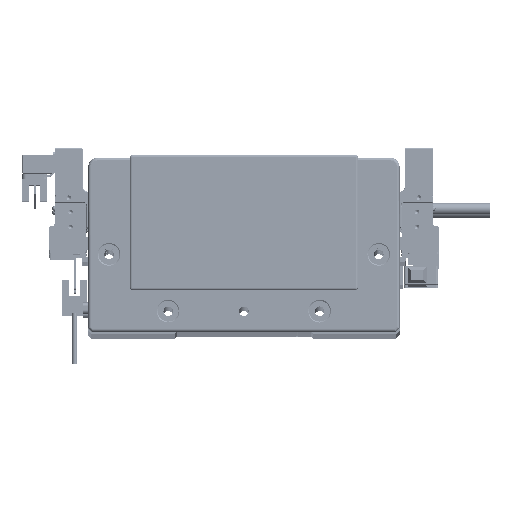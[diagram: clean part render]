
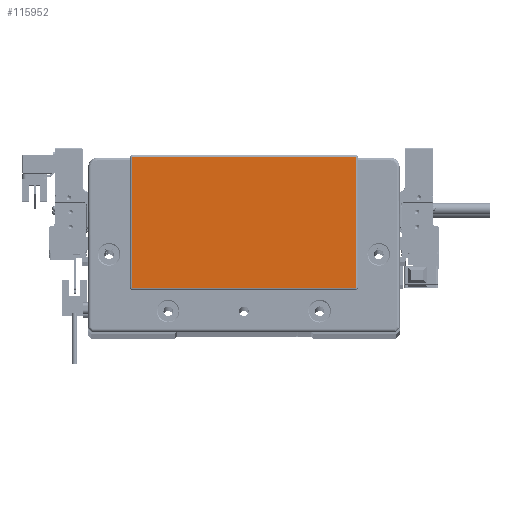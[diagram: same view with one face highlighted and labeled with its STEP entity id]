
A CAD part, top view. The second image highlights one B-rep face of the part: STEP entity #115952.
In plain terms, the highlighted planar face has unit normal (0, 0, 1) as drawn and (0, 0, -1) by its records, which use the part's own axes.
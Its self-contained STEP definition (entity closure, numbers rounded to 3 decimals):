
#634 = EDGE_LOOP ( 'NONE', ( #16999, #89456, #49329, #35294, #66061, #95220, #43981, #45747 ) ) ;
#2717 = AXIS2_PLACEMENT_3D ( 'NONE', #26916, #72173, #118517 ) ;
#4208 = VERTEX_POINT ( 'NONE', #48377 ) ;
#4213 = DIRECTION ( 'NONE',  ( 0., 0., -1. ) ) ;
#4797 = CARTESIAN_POINT ( 'NONE',  ( -58.75, 45.3, -2. ) ) ;
#5653 = VERTEX_POINT ( 'NONE', #37197 ) ;
#7407 = EDGE_CURVE ( 'NONE', #51511, #45209, #49118, .T. ) ;
#9446 = CARTESIAN_POINT ( 'NONE',  ( -59.25, 45.3, -2. ) ) ;
#10368 = EDGE_CURVE ( 'NONE', #45209, #37325, #73289, .T. ) ;
#11980 = CARTESIAN_POINT ( 'NONE',  ( -58.75, -23.8, -2. ) ) ;
#16999 = ORIENTED_EDGE ( 'NONE', *, *, #39788, .T. ) ;
#19334 = CARTESIAN_POINT ( 'NONE',  ( 58.75, 45.8, -2. ) ) ;
#19532 = DIRECTION ( 'NONE',  ( -1., 0., 0. ) ) ;
#19921 = VECTOR ( 'NONE', #101008, 1000. ) ;
#21678 = CARTESIAN_POINT ( 'NONE',  ( 59.25, -23.3, -2. ) ) ;
#22232 = CARTESIAN_POINT ( 'NONE',  ( 0., 0., -2. ) ) ;
#23345 = CARTESIAN_POINT ( 'NONE',  ( 59.25, -23.3, -2. ) ) ;
#23891 = CIRCLE ( 'NONE', #2717, 0.5 ) ;
#25254 = CARTESIAN_POINT ( 'NONE',  ( -58.75, 45.8, -2. ) ) ;
#25942 = CARTESIAN_POINT ( 'NONE',  ( 59.25, 45.3, -2. ) ) ;
#26720 = VERTEX_POINT ( 'NONE', #19334 ) ;
#26916 = CARTESIAN_POINT ( 'NONE',  ( 58.75, 45.3, -2. ) ) ;
#30746 = DIRECTION ( 'NONE',  ( 0., -1., 0. ) ) ;
#31285 = DIRECTION ( 'NONE',  ( -1., 0., 0. ) ) ;
#35294 = ORIENTED_EDGE ( 'NONE', *, *, #79582, .T. ) ;
#37197 = CARTESIAN_POINT ( 'NONE',  ( -58.75, -23.8, -2. ) ) ;
#37325 = VERTEX_POINT ( 'NONE', #25254 ) ;
#37401 = VECTOR ( 'NONE', #30746, 1000. ) ;
#39329 = EDGE_CURVE ( 'NONE', #37325, #26720, #52237, .T. ) ;
#39788 = EDGE_CURVE ( 'NONE', #109937, #64587, #74225, .T. ) ;
#43981 = ORIENTED_EDGE ( 'NONE', *, *, #39329, .T. ) ;
#45209 = VERTEX_POINT ( 'NONE', #9446 ) ;
#45747 = ORIENTED_EDGE ( 'NONE', *, *, #106719, .T. ) ;
#46127 = CARTESIAN_POINT ( 'NONE',  ( -58.75, -23.3, -2. ) ) ;
#46777 = CARTESIAN_POINT ( 'NONE',  ( 58.75, 45.8, -2. ) ) ;
#48377 = CARTESIAN_POINT ( 'NONE',  ( 58.75, -23.8, -2. ) ) ;
#48840 = DIRECTION ( 'NONE',  ( -1., 0., 0. ) ) ;
#49118 = LINE ( 'NONE', #56367, #80504 ) ;
#49329 = ORIENTED_EDGE ( 'NONE', *, *, #74406, .T. ) ;
#51511 = VERTEX_POINT ( 'NONE', #53407 ) ;
#52237 = LINE ( 'NONE', #46777, #19921 ) ;
#53407 = CARTESIAN_POINT ( 'NONE',  ( -59.25, -23.3, -2. ) ) ;
#53714 = AXIS2_PLACEMENT_3D ( 'NONE', #22232, #77147, #48840 ) ;
#56367 = CARTESIAN_POINT ( 'NONE',  ( -59.25, 45.3, -2. ) ) ;
#57468 = DIRECTION ( 'NONE',  ( 0., 0., -1. ) ) ;
#58416 = VECTOR ( 'NONE', #31285, 1000. ) ;
#63649 = AXIS2_PLACEMENT_3D ( 'NONE', #4797, #4213, #94728 ) ;
#64587 = VERTEX_POINT ( 'NONE', #23345 ) ;
#66061 = ORIENTED_EDGE ( 'NONE', *, *, #7407, .T. ) ;
#66914 = CIRCLE ( 'NONE', #86172, 0.5 ) ;
#70020 = EDGE_CURVE ( 'NONE', #64587, #4208, #103994, .T. ) ;
#71328 = AXIS2_PLACEMENT_3D ( 'NONE', #111638, #57468, #102622 ) ;
#72173 = DIRECTION ( 'NONE',  ( 0., 0., -1. ) ) ;
#73289 = CIRCLE ( 'NONE', #63649, 0.5 ) ;
#74225 = LINE ( 'NONE', #21678, #37401 ) ;
#74406 = EDGE_CURVE ( 'NONE', #4208, #5653, #104227, .T. ) ;
#77147 = DIRECTION ( 'NONE',  ( 0., 0., -1. ) ) ;
#79582 = EDGE_CURVE ( 'NONE', #5653, #51511, #66914, .T. ) ;
#80504 = VECTOR ( 'NONE', #93726, 1000. ) ;
#86172 = AXIS2_PLACEMENT_3D ( 'NONE', #46127, #101545, #19532 ) ;
#89456 = ORIENTED_EDGE ( 'NONE', *, *, #70020, .T. ) ;
#93726 = DIRECTION ( 'NONE',  ( 0., 1., 0. ) ) ;
#94728 = DIRECTION ( 'NONE',  ( -1., 0., 0. ) ) ;
#95220 = ORIENTED_EDGE ( 'NONE', *, *, #10368, .T. ) ;
#101008 = DIRECTION ( 'NONE',  ( 1., 0., 0. ) ) ;
#101545 = DIRECTION ( 'NONE',  ( 0., 0., -1. ) ) ;
#102622 = DIRECTION ( 'NONE',  ( -1., 0., 0. ) ) ;
#103994 = CIRCLE ( 'NONE', #71328, 0.5 ) ;
#104227 = LINE ( 'NONE', #11980, #58416 ) ;
#104236 = PLANE ( 'NONE',  #53714 ) ;
#104832 = FACE_OUTER_BOUND ( 'NONE', #634, .T. ) ;
#106719 = EDGE_CURVE ( 'NONE', #26720, #109937, #23891, .T. ) ;
#109937 = VERTEX_POINT ( 'NONE', #25942 ) ;
#111638 = CARTESIAN_POINT ( 'NONE',  ( 58.75, -23.3, -2. ) ) ;
#115952 = ADVANCED_FACE ( 'NONE', ( #104832 ), #104236, .T. ) ;
#118517 = DIRECTION ( 'NONE',  ( -1., 0., 0. ) ) ;
